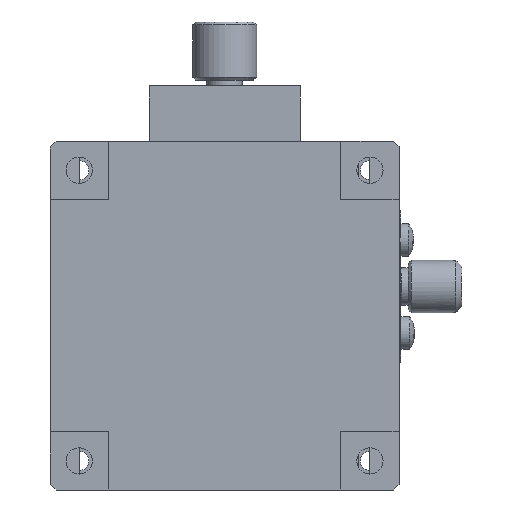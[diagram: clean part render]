
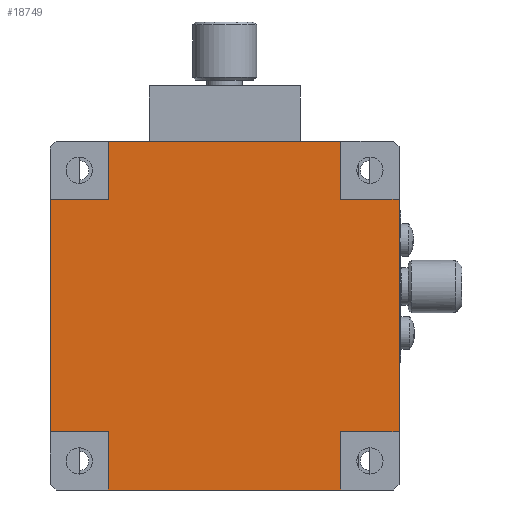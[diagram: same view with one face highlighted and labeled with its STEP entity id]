
A CAD part, front view. The second image highlights one B-rep face of the part: STEP entity #18749.
In plain terms, the highlighted planar face has unit normal (0, -1, 0).
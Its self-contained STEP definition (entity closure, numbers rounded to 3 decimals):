
#272 = DIRECTION ( 'NONE',  ( 1., 0., 0. ) ) ;
#303 = DIRECTION ( 'NONE',  ( 0., 0., -1. ) ) ;
#677 = ORIENTED_EDGE ( 'NONE', *, *, #22760, .F. ) ;
#792 = ORIENTED_EDGE ( 'NONE', *, *, #15804, .T. ) ;
#832 = VECTOR ( 'NONE', #23292, 1000. ) ;
#1014 = DIRECTION ( 'NONE',  ( 0., -1., 0. ) ) ;
#1416 = VERTEX_POINT ( 'NONE', #8314 ) ;
#1447 = CARTESIAN_POINT ( 'NONE',  ( 10., 0.4, 60. ) ) ;
#1492 = CARTESIAN_POINT ( 'NONE',  ( 50., 0.4, 50. ) ) ;
#1536 = LINE ( 'NONE', #6949, #2924 ) ;
#1654 = ORIENTED_EDGE ( 'NONE', *, *, #7949, .F. ) ;
#1717 = EDGE_CURVE ( 'NONE', #20170, #12221, #19893, .T. ) ;
#1754 = LINE ( 'NONE', #3331, #9565 ) ;
#1796 = VECTOR ( 'NONE', #21180, 1000. ) ;
#2220 = CARTESIAN_POINT ( 'NONE',  ( 0., 0.4, 50. ) ) ;
#2244 = ORIENTED_EDGE ( 'NONE', *, *, #9884, .F. ) ;
#2830 = FACE_OUTER_BOUND ( 'NONE', #6551, .T. ) ;
#2891 = VECTOR ( 'NONE', #8218, 1000. ) ;
#2924 = VECTOR ( 'NONE', #22132, 1000. ) ;
#3205 = VECTOR ( 'NONE', #303, 1000. ) ;
#3331 = CARTESIAN_POINT ( 'NONE',  ( 0., 0.4, 60. ) ) ;
#3351 = VECTOR ( 'NONE', #10830, 1000. ) ;
#3906 = CARTESIAN_POINT ( 'NONE',  ( 60., 0.4, 10. ) ) ;
#4377 = VECTOR ( 'NONE', #272, 1000. ) ;
#4470 = VERTEX_POINT ( 'NONE', #1492 ) ;
#4707 = DIRECTION ( 'NONE',  ( 0., 0., 1. ) ) ;
#4761 = ORIENTED_EDGE ( 'NONE', *, *, #13228, .T. ) ;
#5048 = CARTESIAN_POINT ( 'NONE',  ( 60., 0.4, 50. ) ) ;
#5477 = VERTEX_POINT ( 'NONE', #20220 ) ;
#5746 = ORIENTED_EDGE ( 'NONE', *, *, #11437, .F. ) ;
#6165 = ORIENTED_EDGE ( 'NONE', *, *, #6259, .F. ) ;
#6259 = EDGE_CURVE ( 'NONE', #10488, #20170, #10940, .T. ) ;
#6551 = EDGE_LOOP ( 'NONE', ( #792, #2244, #10158, #4761, #5746, #677, #17151, #10392, #1654, #17909, #9769, #6165 ) ) ;
#6613 = VECTOR ( 'NONE', #16238, 1000. ) ;
#6897 = VERTEX_POINT ( 'NONE', #13890 ) ;
#6949 = CARTESIAN_POINT ( 'NONE',  ( 0., 0.4, 10. ) ) ;
#7027 = CARTESIAN_POINT ( 'NONE',  ( 50., 0.4, 60. ) ) ;
#7181 = LINE ( 'NONE', #21786, #6613 ) ;
#7344 = CARTESIAN_POINT ( 'NONE',  ( 10., 0.4, 10. ) ) ;
#7494 = VERTEX_POINT ( 'NONE', #5048 ) ;
#7949 = EDGE_CURVE ( 'NONE', #12872, #4470, #7181, .T. ) ;
#8218 = DIRECTION ( 'NONE',  ( 1., 0., 0. ) ) ;
#8314 = CARTESIAN_POINT ( 'NONE',  ( 50., 0.4, 10. ) ) ;
#8335 = CARTESIAN_POINT ( 'NONE',  ( 0., 0.4, 0. ) ) ;
#8350 = PLANE ( 'NONE',  #17019 ) ;
#8715 = LINE ( 'NONE', #23323, #11300 ) ;
#8786 = CARTESIAN_POINT ( 'NONE',  ( 60., 0.4, 60. ) ) ;
#9061 = DIRECTION ( 'NONE',  ( 0., 0., 1. ) ) ;
#9350 = EDGE_CURVE ( 'NONE', #6897, #7494, #23160, .T. ) ;
#9565 = VECTOR ( 'NONE', #14293, 1000. ) ;
#9769 = ORIENTED_EDGE ( 'NONE', *, *, #1717, .F. ) ;
#9884 = EDGE_CURVE ( 'NONE', #16762, #5477, #1536, .T. ) ;
#10042 = DIRECTION ( 'NONE',  ( 0., 0., -1. ) ) ;
#10158 = ORIENTED_EDGE ( 'NONE', *, *, #22993, .F. ) ;
#10392 = ORIENTED_EDGE ( 'NONE', *, *, #23156, .F. ) ;
#10488 = VERTEX_POINT ( 'NONE', #2220 ) ;
#10830 = DIRECTION ( 'NONE',  ( 0., 0., 1. ) ) ;
#10940 = LINE ( 'NONE', #18312, #832 ) ;
#11300 = VECTOR ( 'NONE', #9061, 1000. ) ;
#11437 = EDGE_CURVE ( 'NONE', #1416, #17531, #19258, .T. ) ;
#12221 = VERTEX_POINT ( 'NONE', #15934 ) ;
#12872 = VERTEX_POINT ( 'NONE', #7027 ) ;
#13189 = VECTOR ( 'NONE', #18637, 1000. ) ;
#13228 = EDGE_CURVE ( 'NONE', #22892, #17531, #21484, .T. ) ;
#13538 = CARTESIAN_POINT ( 'NONE',  ( 30., 0.4, 30. ) ) ;
#13890 = CARTESIAN_POINT ( 'NONE',  ( 60., 0.4, 10. ) ) ;
#14293 = DIRECTION ( 'NONE',  ( 1., 0., 0. ) ) ;
#14729 = LINE ( 'NONE', #18729, #4377 ) ;
#15123 = LINE ( 'NONE', #19120, #3205 ) ;
#15608 = EDGE_CURVE ( 'NONE', #12221, #12872, #1754, .T. ) ;
#15804 = EDGE_CURVE ( 'NONE', #10488, #5477, #15123, .T. ) ;
#15934 = CARTESIAN_POINT ( 'NONE',  ( 10., 0.4, 60. ) ) ;
#16077 = CARTESIAN_POINT ( 'NONE',  ( 10., 0.4, 50. ) ) ;
#16238 = DIRECTION ( 'NONE',  ( 0., 0., -1. ) ) ;
#16762 = VERTEX_POINT ( 'NONE', #7344 ) ;
#17019 = AXIS2_PLACEMENT_3D ( 'NONE', #13538, #1014, #10042 ) ;
#17151 = ORIENTED_EDGE ( 'NONE', *, *, #9350, .T. ) ;
#17445 = CARTESIAN_POINT ( 'NONE',  ( 50., 0.4, 0. ) ) ;
#17531 = VERTEX_POINT ( 'NONE', #21194 ) ;
#17909 = ORIENTED_EDGE ( 'NONE', *, *, #15608, .F. ) ;
#18312 = CARTESIAN_POINT ( 'NONE',  ( 0., 0.4, 50. ) ) ;
#18637 = DIRECTION ( 'NONE',  ( -1., 0., 0. ) ) ;
#18729 = CARTESIAN_POINT ( 'NONE',  ( 60., 0.4, 50. ) ) ;
#18749 = ADVANCED_FACE ( 'NONE', ( #2830 ), #8350, .T. ) ;
#19120 = CARTESIAN_POINT ( 'NONE',  ( 0., 0.4, 60. ) ) ;
#19258 = LINE ( 'NONE', #17445, #1796 ) ;
#19893 = LINE ( 'NONE', #1447, #3351 ) ;
#20159 = VECTOR ( 'NONE', #4707, 1000. ) ;
#20170 = VERTEX_POINT ( 'NONE', #16077 ) ;
#20220 = CARTESIAN_POINT ( 'NONE',  ( 0., 0.4, 10. ) ) ;
#20419 = LINE ( 'NONE', #3906, #13189 ) ;
#21180 = DIRECTION ( 'NONE',  ( 0., 0., -1. ) ) ;
#21194 = CARTESIAN_POINT ( 'NONE',  ( 50., 0.4, 0. ) ) ;
#21484 = LINE ( 'NONE', #8335, #2891 ) ;
#21786 = CARTESIAN_POINT ( 'NONE',  ( 50., 0.4, 60. ) ) ;
#22132 = DIRECTION ( 'NONE',  ( -1., 0., 0. ) ) ;
#22760 = EDGE_CURVE ( 'NONE', #6897, #1416, #20419, .T. ) ;
#22892 = VERTEX_POINT ( 'NONE', #23085 ) ;
#22993 = EDGE_CURVE ( 'NONE', #22892, #16762, #8715, .T. ) ;
#23085 = CARTESIAN_POINT ( 'NONE',  ( 10., 0.4, 0. ) ) ;
#23156 = EDGE_CURVE ( 'NONE', #4470, #7494, #14729, .T. ) ;
#23160 = LINE ( 'NONE', #8786, #20159 ) ;
#23292 = DIRECTION ( 'NONE',  ( 1., 0., 0. ) ) ;
#23323 = CARTESIAN_POINT ( 'NONE',  ( 10., 0.4, 0. ) ) ;
